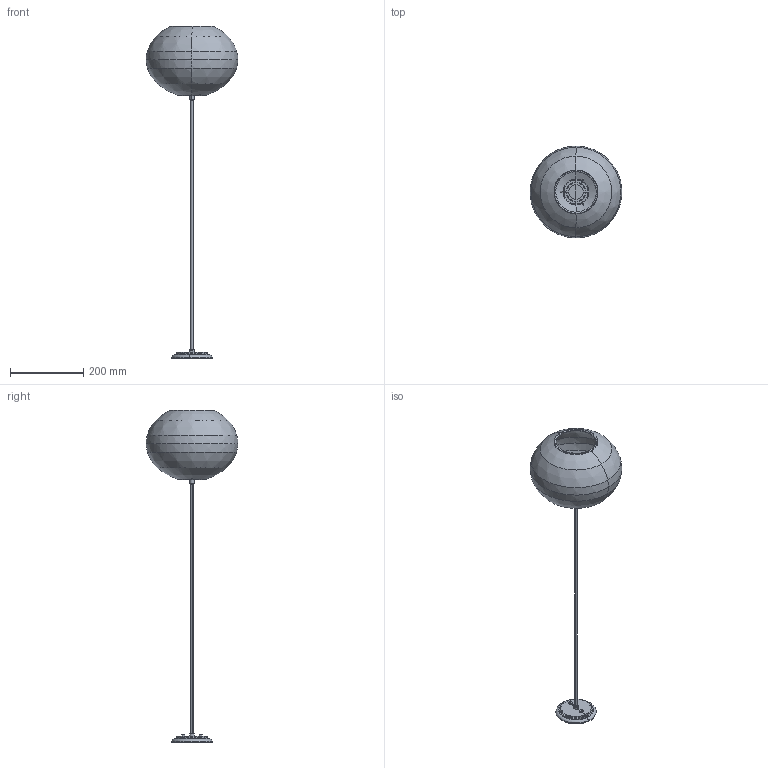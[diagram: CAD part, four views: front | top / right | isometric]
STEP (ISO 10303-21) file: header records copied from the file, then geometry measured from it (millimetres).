
FILE_DESCRIPTION(/* description */ (''),/* implementation_level */ '2;1');
FILE_NAME(/* name */ 'C:\Users\FrancoSartori\Documents\FARO\01_En Proceso\0000_2022\00_SAIPAN,HAKA,SUMBA,TUPAI\03_Publicación\65134-73.stp',/* time_stamp */ '2021-10-19T09:57:23+02:00',/* author */ ('FrancoSartori'),/* organization */ (''),/* preprocessor_version */ 'ST-DEVELOPER v18.1',/* originating_system */ 'AutoCAD Mechanical',/* authorisation */ '');
FILE_SCHEMA (('AUTOMOTIVE_DESIGN { 1 0 10303 214 3 1 1 }'));
Length unit declared in the file: millimetre
Products named in the file (4): Product; 64137_65134_SP - ceiling support-638820-Export; 64137_65134_LH - Lamp Holder-640477-Export; 2P0765 - SH-639684-Export
Assembly tree (3 placements, depth 2):
  Product
    64137_65134_SP - ceiling support-638820-Export
    64137_65134_LH - Lamp Holder-640477-Export
    2P0765 - SH-639684-Export
Bounding box: 249.71 x 249.92 x 904.87 mm (x, y, z)
Volume: 717560.4 mm3; surface area: 393195.1 mm2
Topology: 13 solids, 13 shells, 200 faces, 396 edges, 212 vertices
Faces by surface type: cylinder 76, plane 72, bspline 26, torus 18, cone 8
Entity records: 8232 total; most frequent: CARTESIAN_POINT 4096, DIRECTION 890, ORIENTED_EDGE 792, EDGE_CURVE 396, AXIS2_PLACEMENT_3D 367, VERTEX_POINT 212, EDGE_LOOP 210, FACE_OUTER_BOUND 200
